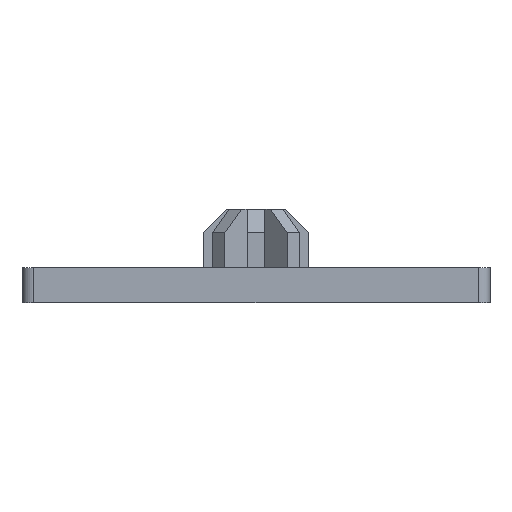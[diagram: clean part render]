
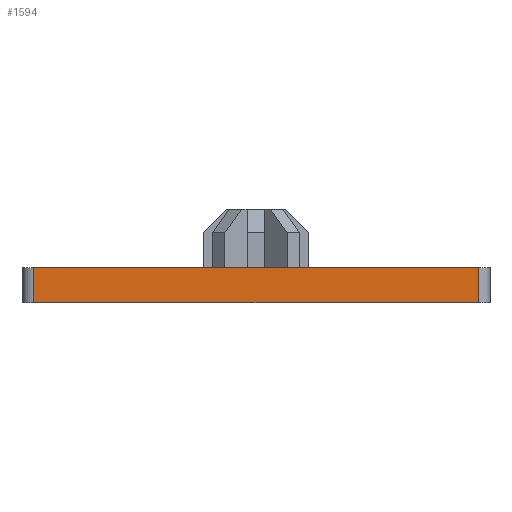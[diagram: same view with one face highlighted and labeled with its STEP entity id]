
A CAD part, front view. The second image highlights one B-rep face of the part: STEP entity #1594.
In plain terms, the highlighted planar face has unit normal (0, -1, 0).
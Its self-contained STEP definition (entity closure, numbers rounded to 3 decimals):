
#78=FACE_OUTER_BOUND($,#157,.T.);
#157=EDGE_LOOP($,(#1261,#1262,#1263,#1264));
#353=LINE($,#2448,#573);
#365=LINE($,#2483,#585);
#366=LINE($,#2486,#586);
#367=LINE($,#2487,#587);
#573=VECTOR($,#1969,3.);
#585=VECTOR($,#2003,3.);
#586=VECTOR($,#2008,38.);
#587=VECTOR($,#2009,38.);
#753=VERTEX_POINT($,#2441);
#756=VERTEX_POINT($,#2446);
#767=VERTEX_POINT($,#2480);
#768=VERTEX_POINT($,#2482);
#947=EDGE_CURVE($,#756,#753,#353,.T.);
#964=EDGE_CURVE($,#768,#767,#365,.T.);
#966=EDGE_CURVE($,#767,#753,#366,.T.);
#967=EDGE_CURVE($,#756,#768,#367,.T.);
#1261=ORIENTED_EDGE($,*,*,#966,.T.);
#1262=ORIENTED_EDGE($,*,*,#947,.F.);
#1263=ORIENTED_EDGE($,*,*,#967,.T.);
#1264=ORIENTED_EDGE($,*,*,#964,.T.);
#1513=PLANE($,#1686);
#1594=ADVANCED_FACE($,(#78),#1513,.T.);
#1686=AXIS2_PLACEMENT_3D($,#2485,#2006,#2007);
#1969=DIRECTION($,(0.,0.,1.));
#2003=DIRECTION($,(0.,0.,1.));
#2006=DIRECTION('center_axis',(0.,-1.,0.));
#2007=DIRECTION('ref_axis',(0.,0.,-1.));
#2008=DIRECTION($,(-1.,0.,0.));
#2009=DIRECTION($,(1.,0.,0.));
#2441=CARTESIAN_POINT('',(1.071,0.137,3.));
#2446=CARTESIAN_POINT('',(1.071,0.137,0.));
#2448=CARTESIAN_POINT($,(1.071,0.137,0.));
#2480=CARTESIAN_POINT('',(39.071,0.137,3.));
#2482=CARTESIAN_POINT('',(39.071,0.137,0.));
#2483=CARTESIAN_POINT($,(39.071,0.137,0.));
#2485=CARTESIAN_POINT('Origin',(39.071,0.137,0.));
#2486=CARTESIAN_POINT($,(1.071,0.137,3.));
#2487=CARTESIAN_POINT($,(1.071,0.137,0.));
